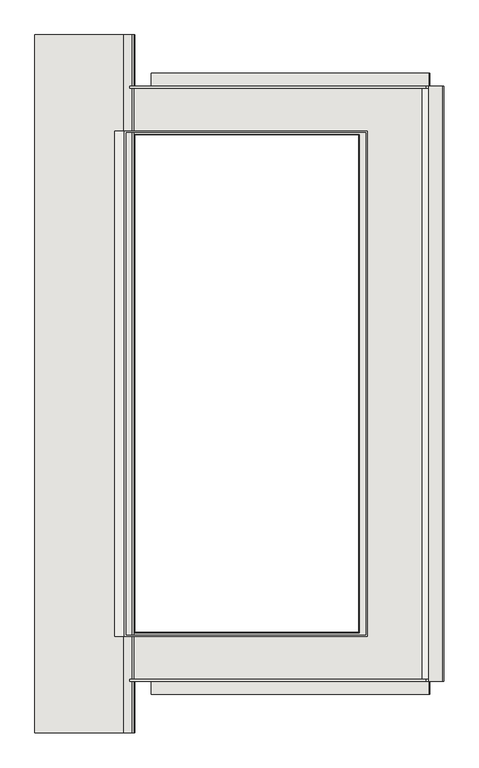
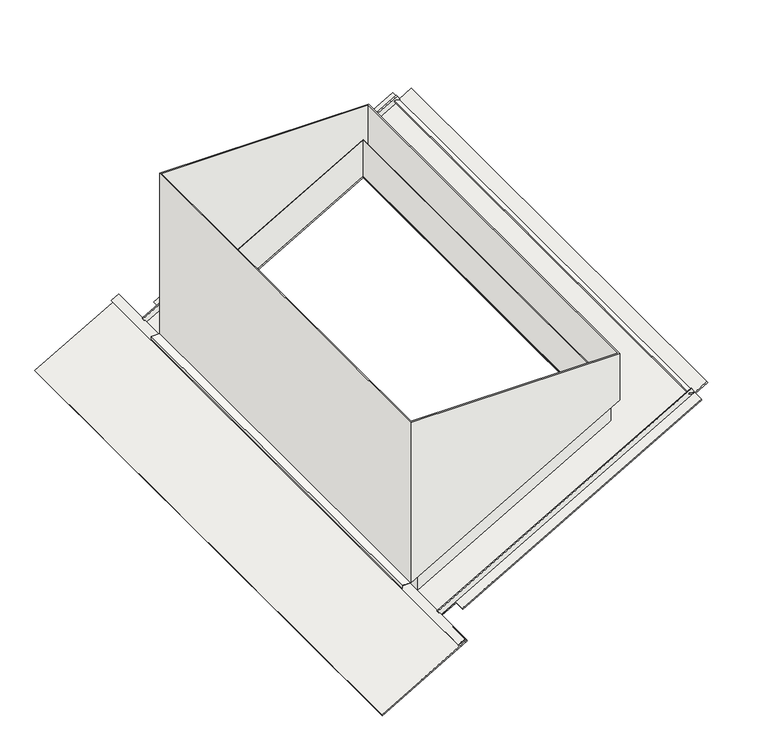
"""IFC4 building model written with IfcOpenShell, lengths in millimetres: covering geometry, MG_BPC_Delta Discovery Air_mountingbox-PA_M&G : mountingbox DDA."""

from ifc_helpers import new_model, si_unit, frame, origin, place, context, project, spatial, polyline, outline, extrude, faceted_brep, source, transform, mapped, element, save


def covering_13abd7a2(model_context):
    return source(origin(), model_context, "Body", "SolidModel", [
        extrude(outline(polyline([(0.0, 0.0), (0.0, -350.0), (-157.5, -350.0), (-157.5, -410.0), (-117.5, -410.0), (-117.5, -1390.9698687), (-157.5, -1390.9698687), (-157.5, -1440.9698687), (-1977.5, -1440.9698687), (-1977.5, -1390.9698687), (-2017.5, -1390.9698687), (-2017.5, -410.0), (-1977.5, -410.0), (-1977.5, -350.0), (-2135.0, -350.0), (-2135.0, 0.0), (0.0, 0.0)]), holes=[polyline([(-1827.5, -350.0), (-1827.5, -1140.9698688), (-307.5, -1140.9698688), (-307.5, -350.0), (-1827.5, -350.0)])]), frame((-303.1088913, 1067.5, -175.0), z_axis=(-0.4999999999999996, 0.0, 0.8660254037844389), x_axis=(0.0, 1.0, 0.0)), (0.0, 0.0, 1.0), 5.0),
        faceted_brep([(0.0, 760.0, 140.8734657), (0.0, 760.0, 0.0), (684.0, 760.0, 394.9075841), (684.0, 760.0, 535.7810498), (0.0, -760.0, 140.8734657), (0.0, -760.0, 0.0), (684.0, -760.0, 535.7810498), (684.0, -760.0, 394.9075841), (685.9866683, 762.0, 536.9280533), (685.9866683, 762.0, 396.0545876), (-2.0066659, 762.0, -1.1585491), (-2.0066659, 762.0, 139.7149166), (-2.0066659, -762.0, -1.1585491), (-2.0066659, -762.0, 139.7149166), (685.9866683, -762.0, 396.0545876), (685.9866683, -762.0, 536.9280533)], [[[0, 1, 2, 3]], [[1, 0, 4, 5]], [[5, 4, 6, 7]], [[7, 6, 3, 2]], [[8, 9, 10, 11]], [[11, 10, 12, 13]], [[13, 12, 14, 15]], [[9, 8, 15, 14]], [[10, 9, 14, 12], [2, 1, 5, 7]], [[8, 11, 13, 15], [0, 3, 6, 4]]]),
        faceted_brep([(710.9866683, -773.0, 654.7703766), (710.9866683, -773.0, 479.7703766), (710.9866683, 773.0, 479.7703766), (710.9866683, 773.0, 654.7703766), (-32.0066659, 773.0, 50.8029751), (-32.0066659, 773.0, 654.7703766), (-32.0066659, -773.0, 50.8029751), (-32.0066659, -773.0, 654.7703766), (-27.0066659, -768.0, 654.7703766), (-27.0066659, -768.0, 53.6897265), (-27.0066659, 768.0, 53.6897265), (-27.0066659, 768.0, 654.7703766), (705.9866683, 768.0, 476.8836253), (705.9866683, 768.0, 654.7703766), (705.9866683, -768.0, 476.8836253), (705.9866683, -768.0, 654.7703766)], [[[0, 1, 2, 3]], [[3, 2, 4, 5]], [[5, 4, 6, 7]], [[1, 0, 7, 6]], [[8, 9, 10, 11]], [[11, 10, 12, 13]], [[13, 12, 14, 15]], [[9, 8, 15, 14]], [[2, 1, 6, 4], [10, 9, 14, 12]], [[0, 3, 5, 7], [8, 11, 13, 15]]]),
        faceted_brep([(-7.5, -1067.5, 12.9903811), (-33.4807621, -1067.5, -2.0096189), (-31.9807621, -1067.5, -4.6076952), (-8.5980762, -1067.5, 8.8923048), (-5.0980762, -1067.5, 2.830127), (-2.5, -1067.5, 4.330127), (-7.5, 1067.5, 12.9903811), (-2.5, 1067.5, 4.330127), (-5.0980762, 1067.5, 2.830127), (-8.5980762, 1067.5, 8.8923048), (-31.9807621, 1067.5, -4.6076952), (-33.4807621, 1067.5, -2.0096189), (-7.5, -910.0, 12.9903811), (-33.4807621, -910.0, -2.0096189), (-31.9807621, -910.0, -4.6076952), (-8.5980762, -910.0, 8.8923048), (-5.0980762, -910.0, 2.830127), (-2.5, -910.0, 4.330127)], [[[0, 1, 2, 3, 4, 5]], [[6, 7, 8, 9, 10, 11]], [[1, 0, 12, 6, 11, 13]], [[2, 1, 13, 11, 10, 14]], [[3, 2, 14, 10, 9, 15]], [[4, 3, 15, 9, 8, 16]], [[5, 4, 16, 8, 7, 17]], [[0, 5, 17, 7, 6, 12]]]),
        extrude(outline(polyline([(51.8029751, -62.0066659), (41.8029751, -62.0066659), (41.8029751, -61.0066659), (50.8029751, -61.0066659), (50.8029751, -32.0066659), (51.8029751, -32.0066659), (51.8029751, -62.0066659)])), frame((0.0, -773.0, 0.0), z_axis=(0.0, 1.0, 0.0), x_axis=(0.0, 0.0, 1.0)), (0.0, 0.0, 1.0), 1546.0),
        extrude(outline(polyline([(0.0, -20.0), (0.0, 0.0), (1820.0, 0.0), (1820.0, -20.0), (0.0, -20.0)])), frame((878.3937392, -910.0, 525.1618132), z_axis=(0.25881904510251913, 0.0, 0.9659258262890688), x_axis=(0.0, 1.0, 0.0)), (0.0, 0.0, 1.0), 5.0),
        extrude(outline(polyline([(0.0, -5.0), (0.0, 0.0), (1043.9698687, 0.0), (1043.9698687, -5.0), (0.0, -5.0)])), frame((899.0063509, 905.0, 524.8150614), z_axis=(-0.4999999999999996, 0.0, 0.8660254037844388), x_axis=(-0.8660254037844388, 0.0, -0.4999999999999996)), (0.0, 0.0, 1.0), 20.0),
        extrude(outline(polyline([(0.0, -5.0), (0.0, 0.0), (1043.9698687, 0.0), (1043.9698687, -5.0), (0.0, -5.0)])), frame((-5.0980762, -905.0, 2.830127), z_axis=(-0.49999999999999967, 0.0, 0.8660254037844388), x_axis=(0.8660254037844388, 0.0, 0.49999999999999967)), (0.0, 0.0, 1.0), 20.0),
    ])


if __name__ == "__main__":
    model = new_model("IFC4")
    model_context = context("Model", 3, world=origin())
    ifc_project = project(units=[si_unit("LENGTHUNIT", "METRE", prefix="MILLI")], contexts=[model_context])
    site = spatial("IfcSite", under=ifc_project)
    building = spatial("IfcBuilding", under=site)
    placement = place(None, origin())
    covering_shape = covering_13abd7a2(model_context)
    element("IfcCovering", 1, ObjectType="MG_BPC_Delta Discovery Air_mountingbox-PA_M&G : mountingbox DDA", at=placement, inside=building, context=model_context, shape_type="MappedRepresentation", body=[
        mapped(covering_shape, transform((0.0, 0.0, 0.0), x_axis=(1.0, 0.0, 0.0), y_axis=(0.0, 1.0, 0.0), z_axis=(0.0, 0.0, 1.0))),
    ])
    save(model, "model.ifc")
